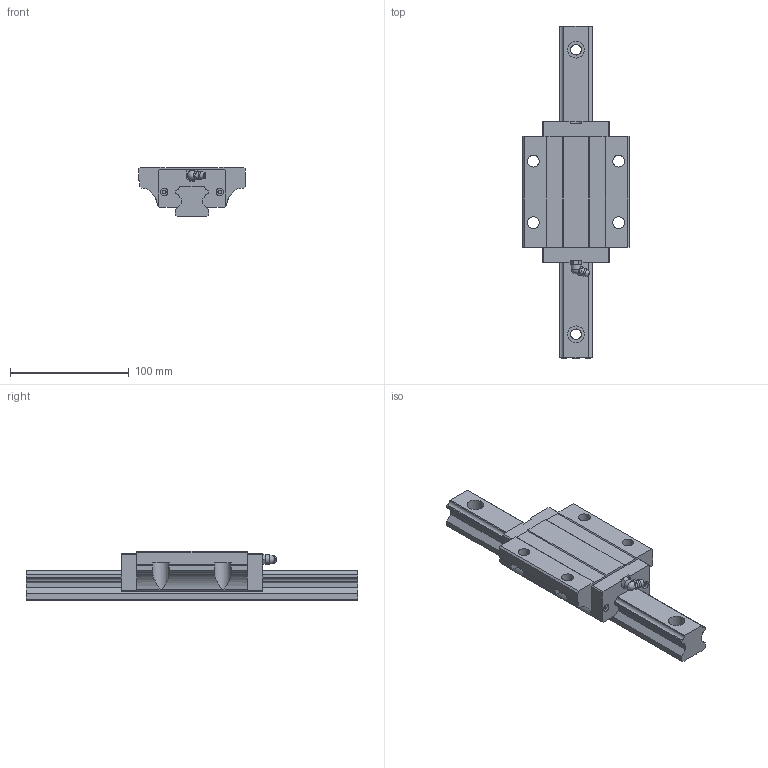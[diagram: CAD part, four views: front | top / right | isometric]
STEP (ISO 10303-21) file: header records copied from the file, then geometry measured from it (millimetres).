
FILE_DESCRIPTION(/* description */ (''),/* implementation_level */ '2;1');
FILE_NAME(/* name */ 'MSA30LE',/* time_stamp */ '2003-12-29T13:27:37+08:00',/* author */ (''),/* organization */ (''),/* preprocessor_version */ 'ST-DEVELOPER v9',/* originating_system */ '',/* authorisation */ '');
FILE_SCHEMA (('CONFIG_CONTROL_DESIGN'));
Length unit declared in the file: millimetre
Products named in the file (1): zirc5932mwis
Bounding box: 90 x 280 x 42 mm (x, y, z)
Volume: 391181 mm3; surface area: 74579.9 mm2
Topology: 3 solids, 3 shells, 224 faces, 617 edges, 408 vertices
Faces by surface type: plane 162, cylinder 51, torus 7, sphere 2, cone 1, bspline 1
Full cylindrical faces by diameter (mm): 3.25 x4, 6.5 x5, 8 x1, 9 x4, 10 x4, 14 x4
Entity records: 7164 total; most frequent: CARTESIAN_POINT 1412, ORIENTED_EDGE 1164, DIRECTION 1151, EDGE_CURVE 582, LINE 409, VECTOR 409, VERTEX_POINT 400, AXIS2_PLACEMENT_3D 371
